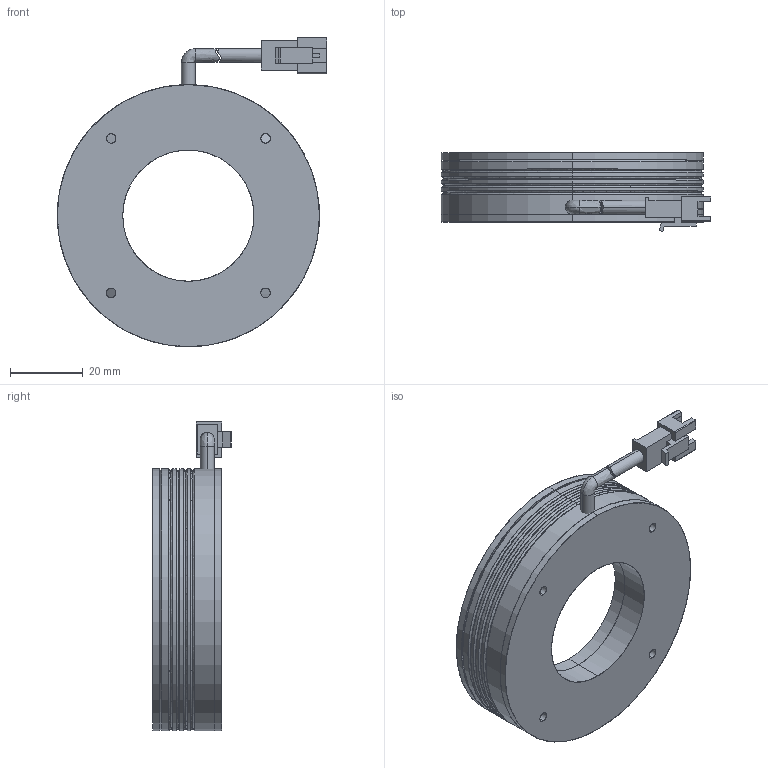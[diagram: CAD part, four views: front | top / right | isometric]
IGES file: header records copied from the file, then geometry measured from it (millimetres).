
Start section: SolidWorks IGES file using analytic representation for surfaces
Global section: file name: E:\SynologyDrive\新款图纸\标准产品\环光\环光30\R7230-36\ED\R7230-36.IGS; native system: SolidWorks 2020; preprocessor: SolidWorks 2020; author: Administrator; date: 200827.094453; units: millimetre
Bounding box: 74 x 21.65 x 85 mm (x, y, z)
Surface area: 32166.1 mm2 (no closed solid volume)
Topology: 0 solids, 0 shells, 298 faces, 4124 edges, 4100 vertices
Faces by surface type: bspline 162, revolution 136
